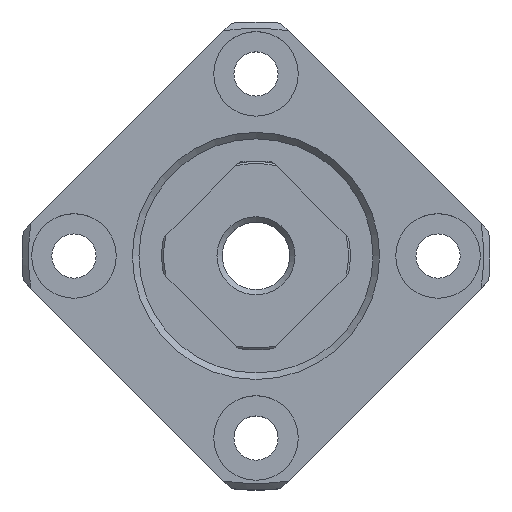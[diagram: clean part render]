
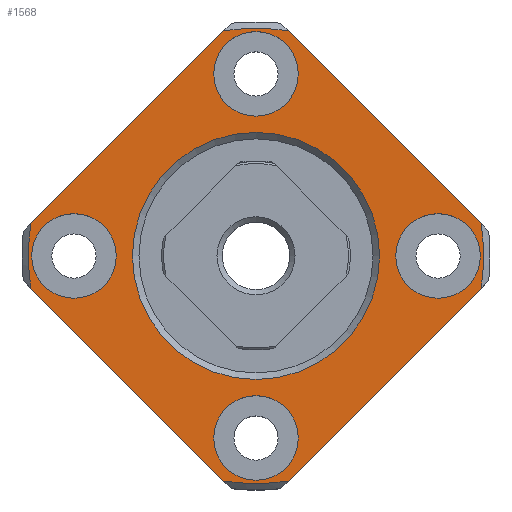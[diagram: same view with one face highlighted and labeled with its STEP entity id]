
A CAD part, top view. The second image highlights one B-rep face of the part: STEP entity #1568.
In plain terms, the highlighted planar face has unit normal (0, 0, 1) as drawn and (-1, 0, 0) by its records, which use the part's own axes.
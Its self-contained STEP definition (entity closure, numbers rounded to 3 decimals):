
#138=LINE('',#2421,#222);
#139=LINE('',#2426,#223);
#140=LINE('',#2430,#224);
#141=LINE('',#2434,#225);
#222=VECTOR('',#1930,1000.);
#223=VECTOR('',#1933,1000.);
#224=VECTOR('',#1936,1000.);
#225=VECTOR('',#1939,1000.);
#308=ORIENTED_EDGE('',*,*,#738,.T.);
#309=ORIENTED_EDGE('',*,*,#739,.T.);
#310=ORIENTED_EDGE('',*,*,#740,.T.);
#311=ORIENTED_EDGE('',*,*,#741,.T.);
#312=ORIENTED_EDGE('',*,*,#742,.F.);
#313=ORIENTED_EDGE('',*,*,#743,.F.);
#314=ORIENTED_EDGE('',*,*,#744,.F.);
#315=ORIENTED_EDGE('',*,*,#745,.F.);
#316=ORIENTED_EDGE('',*,*,#746,.F.);
#317=ORIENTED_EDGE('',*,*,#747,.F.);
#318=ORIENTED_EDGE('',*,*,#748,.F.);
#319=ORIENTED_EDGE('',*,*,#749,.F.);
#320=ORIENTED_EDGE('',*,*,#750,.T.);
#738=EDGE_CURVE('',#953,#953,#1112,.T.);
#739=EDGE_CURVE('',#954,#954,#1113,.T.);
#740=EDGE_CURVE('',#955,#955,#1114,.T.);
#741=EDGE_CURVE('',#956,#956,#1115,.T.);
#742=EDGE_CURVE('',#957,#958,#138,.T.);
#743=EDGE_CURVE('',#959,#957,#1116,.T.);
#744=EDGE_CURVE('',#960,#959,#139,.T.);
#745=EDGE_CURVE('',#961,#960,#1117,.T.);
#746=EDGE_CURVE('',#962,#961,#140,.T.);
#747=EDGE_CURVE('',#963,#962,#1118,.T.);
#748=EDGE_CURVE('',#964,#963,#141,.T.);
#749=EDGE_CURVE('',#958,#964,#1119,.T.);
#750=EDGE_CURVE('',#965,#965,#1120,.T.);
#953=VERTEX_POINT('',#2414);
#954=VERTEX_POINT('',#2416);
#955=VERTEX_POINT('',#2418);
#956=VERTEX_POINT('',#2420);
#957=VERTEX_POINT('',#2422);
#958=VERTEX_POINT('',#2423);
#959=VERTEX_POINT('',#2425);
#960=VERTEX_POINT('',#2427);
#961=VERTEX_POINT('',#2429);
#962=VERTEX_POINT('',#2431);
#963=VERTEX_POINT('',#2433);
#964=VERTEX_POINT('',#2435);
#965=VERTEX_POINT('',#2438);
#1112=CIRCLE('',#1712,3.25);
#1113=CIRCLE('',#1713,3.25);
#1114=CIRCLE('',#1714,3.25);
#1115=CIRCLE('',#1715,3.25);
#1116=CIRCLE('',#1716,17.5);
#1117=CIRCLE('',#1717,17.5);
#1118=CIRCLE('',#1718,17.5);
#1119=CIRCLE('',#1719,17.5);
#1120=CIRCLE('',#1720,9.5);
#1206=EDGE_LOOP('',(#308));
#1207=EDGE_LOOP('',(#309));
#1208=EDGE_LOOP('',(#310));
#1209=EDGE_LOOP('',(#311));
#1210=EDGE_LOOP('',(#312,#313,#314,#315,#316,#317,#318,#319));
#1211=EDGE_LOOP('',(#320));
#1366=FACE_BOUND('',#1206,.T.);
#1367=FACE_BOUND('',#1207,.T.);
#1368=FACE_BOUND('',#1208,.T.);
#1369=FACE_BOUND('',#1209,.T.);
#1370=FACE_BOUND('',#1210,.T.);
#1371=FACE_BOUND('',#1211,.T.);
#1525=PLANE('',#1711);
#1568=ADVANCED_FACE('',(#1366,#1367,#1368,#1369,#1370,#1371),#1525,.F.);
#1711=AXIS2_PLACEMENT_3D('',#2412,#1920,#1921);
#1712=AXIS2_PLACEMENT_3D('',#2413,#1922,#1923);
#1713=AXIS2_PLACEMENT_3D('',#2415,#1924,#1925);
#1714=AXIS2_PLACEMENT_3D('',#2417,#1926,#1927);
#1715=AXIS2_PLACEMENT_3D('',#2419,#1928,#1929);
#1716=AXIS2_PLACEMENT_3D('',#2424,#1931,#1932);
#1717=AXIS2_PLACEMENT_3D('',#2428,#1934,#1935);
#1718=AXIS2_PLACEMENT_3D('',#2432,#1937,#1938);
#1719=AXIS2_PLACEMENT_3D('',#2436,#1940,#1941);
#1720=AXIS2_PLACEMENT_3D('',#2437,#1942,#1943);
#1920=DIRECTION('',(1.,0.,0.));
#1921=DIRECTION('',(0.,0.,-1.));
#1922=DIRECTION('',(1.,0.,0.));
#1923=DIRECTION('',(0.,0.,-1.));
#1924=DIRECTION('',(1.,0.,0.));
#1925=DIRECTION('',(0.,0.,-1.));
#1926=DIRECTION('',(1.,0.,0.));
#1927=DIRECTION('',(0.,0.,-1.));
#1928=DIRECTION('',(1.,0.,0.));
#1929=DIRECTION('',(0.,0.,-1.));
#1930=DIRECTION('',(0.,-0.707,0.707));
#1931=DIRECTION('',(1.,0.,0.));
#1932=DIRECTION('',(0.,0.,-1.));
#1933=DIRECTION('',(0.,0.707,0.707));
#1934=DIRECTION('',(1.,0.,0.));
#1935=DIRECTION('',(0.,0.,-1.));
#1936=DIRECTION('',(0.,0.707,-0.707));
#1937=DIRECTION('',(1.,0.,0.));
#1938=DIRECTION('',(0.,0.,-1.));
#1939=DIRECTION('',(0.,-0.707,-0.707));
#1940=DIRECTION('',(1.,0.,0.));
#1941=DIRECTION('',(0.,0.,-1.));
#1942=DIRECTION('',(1.,0.,0.));
#1943=DIRECTION('',(0.,0.,-1.));
#2412=CARTESIAN_POINT('',(-7.,0.,0.));
#2413=CARTESIAN_POINT('',(-7.,0.,14.));
#2414=CARTESIAN_POINT('',(-7.,0.,10.75));
#2415=CARTESIAN_POINT('',(-7.,-14.,0.));
#2416=CARTESIAN_POINT('',(-7.,-14.,-3.25));
#2417=CARTESIAN_POINT('',(-7.,0.,-14.));
#2418=CARTESIAN_POINT('',(-7.,0.,-17.25));
#2419=CARTESIAN_POINT('',(-7.,14.,0.));
#2420=CARTESIAN_POINT('',(-7.,14.,-3.25));
#2421=CARTESIAN_POINT('',(-7.,19.799,0.));
#2422=CARTESIAN_POINT('',(-7.,17.324,2.475));
#2423=CARTESIAN_POINT('',(-7.,2.475,17.324));
#2424=CARTESIAN_POINT('',(-7.,0.,0.));
#2425=CARTESIAN_POINT('',(-7.,17.324,-2.475));
#2426=CARTESIAN_POINT('',(-7.,0.,-19.799));
#2427=CARTESIAN_POINT('',(-7.,2.475,-17.324));
#2428=CARTESIAN_POINT('',(-7.,0.,0.));
#2429=CARTESIAN_POINT('',(-7.,-2.475,-17.324));
#2430=CARTESIAN_POINT('',(-7.,-19.799,0.));
#2431=CARTESIAN_POINT('',(-7.,-17.324,-2.475));
#2432=CARTESIAN_POINT('',(-7.,0.,0.));
#2433=CARTESIAN_POINT('',(-7.,-17.324,2.475));
#2434=CARTESIAN_POINT('',(-7.,0.,19.799));
#2435=CARTESIAN_POINT('',(-7.,-2.475,17.324));
#2436=CARTESIAN_POINT('',(-7.,0.,0.));
#2437=CARTESIAN_POINT('',(-7.,0.,0.));
#2438=CARTESIAN_POINT('',(-7.,0.,-9.5));
